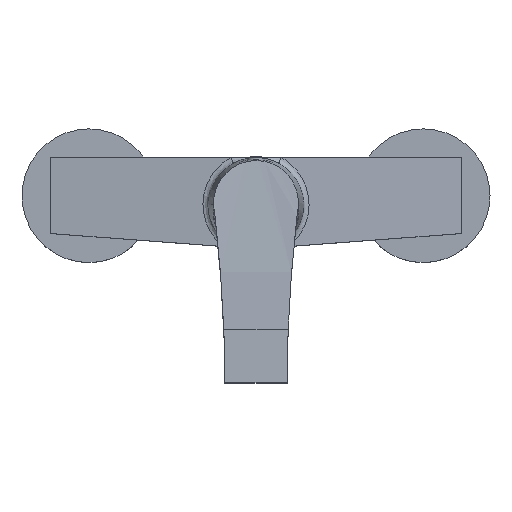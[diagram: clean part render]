
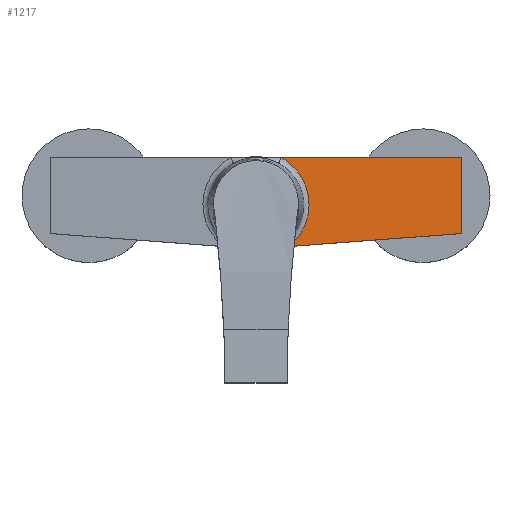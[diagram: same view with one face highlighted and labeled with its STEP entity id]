
A CAD part, top view. The second image highlights one B-rep face of the part: STEP entity #1217.
In plain terms, the highlighted planar face has unit normal (0.056, 0, 0.998).
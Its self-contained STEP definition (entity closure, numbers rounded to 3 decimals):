
#39=PLANE('',#1310);
#77=LINE('',#1998,#156);
#78=LINE('',#2002,#157);
#79=LINE('',#2004,#158);
#80=LINE('',#2005,#159);
#156=VECTOR('',#1432,10.);
#157=VECTOR('',#1435,10.);
#158=VECTOR('',#1436,10.);
#159=VECTOR('',#1437,10.);
#274=FACE_OUTER_BOUND('',#345,.T.);
#345=EDGE_LOOP('',(#787,#788,#789,#790,#791,#792));
#419=ELLIPSE('',#1303,24.038,24.);
#423=ELLIPSE('',#1311,3.005,3.);
#478=VERTEX_POINT('',#1743);
#479=VERTEX_POINT('',#1745);
#487=VERTEX_POINT('',#1997);
#488=VERTEX_POINT('',#1999);
#489=VERTEX_POINT('',#2001);
#490=VERTEX_POINT('',#2003);
#593=EDGE_CURVE('',#478,#479,#419,.T.);
#608=EDGE_CURVE('',#487,#478,#77,.T.);
#609=EDGE_CURVE('',#487,#488,#423,.F.);
#610=EDGE_CURVE('',#488,#489,#78,.T.);
#611=EDGE_CURVE('',#489,#490,#79,.T.);
#612=EDGE_CURVE('',#479,#490,#80,.T.);
#787=ORIENTED_EDGE('',*,*,#593,.F.);
#788=ORIENTED_EDGE('',*,*,#608,.F.);
#789=ORIENTED_EDGE('',*,*,#609,.T.);
#790=ORIENTED_EDGE('',*,*,#610,.T.);
#791=ORIENTED_EDGE('',*,*,#611,.T.);
#792=ORIENTED_EDGE('',*,*,#612,.F.);
#1217=ADVANCED_FACE('',(#274),#39,.T.);
#1303=AXIS2_PLACEMENT_3D('',#1746,#1412,#1413);
#1310=AXIS2_PLACEMENT_3D('',#1996,#1430,#1431);
#1311=AXIS2_PLACEMENT_3D('',#2000,#1433,#1434);
#1412=DIRECTION('center_axis',(0.056,0.,0.998));
#1413=DIRECTION('ref_axis',(0.998,0.,-0.056));
#1430=DIRECTION('center_axis',(0.056,0.,0.998));
#1431=DIRECTION('ref_axis',(-0.998,0.,0.056));
#1432=DIRECTION('',(-0.998,0.,0.056));
#1433=DIRECTION('center_axis',(0.056,0.,0.998));
#1434=DIRECTION('ref_axis',(-0.998,0.,0.056));
#1435=DIRECTION('',(0.996,0.076,-0.056));
#1436=DIRECTION('',(0.,1.,0.));
#1437=DIRECTION('',(0.998,0.,-0.056));
#1743=CARTESIAN_POINT('',(11.45,-21.,-31.462));
#1745=CARTESIAN_POINT('',(11.45,21.,-31.462));
#1746=CARTESIAN_POINT('Origin',(-0.169,0.,-30.807));
#1996=CARTESIAN_POINT('Origin',(92.,0.,-36.));
#1997=CARTESIAN_POINT('',(13.,-21.,-31.549));
#1998=CARTESIAN_POINT('',(0.,-21.,-30.817));
#1999=CARTESIAN_POINT('',(15.667,-18.797,-31.7));
#2000=CARTESIAN_POINT('Origin',(15.894,-21.789,-31.712));
#2001=CARTESIAN_POINT('',(92.,-13.,-36.));
#2002=CARTESIAN_POINT('',(92.992,-12.925,-36.056));
#2003=CARTESIAN_POINT('',(92.,21.,-36.));
#2004=CARTESIAN_POINT('',(92.,0.,-36.));
#2005=CARTESIAN_POINT('',(0.,21.,-30.817));
